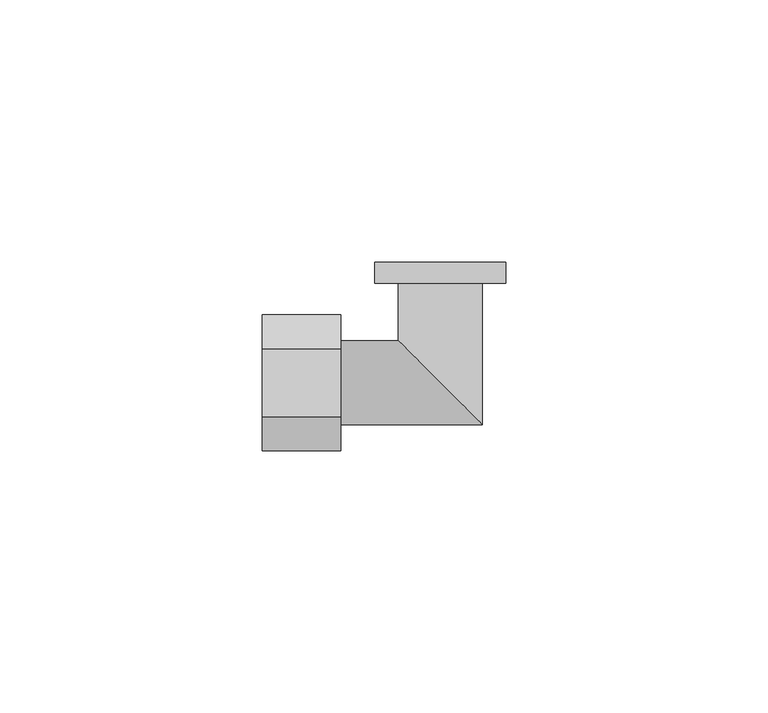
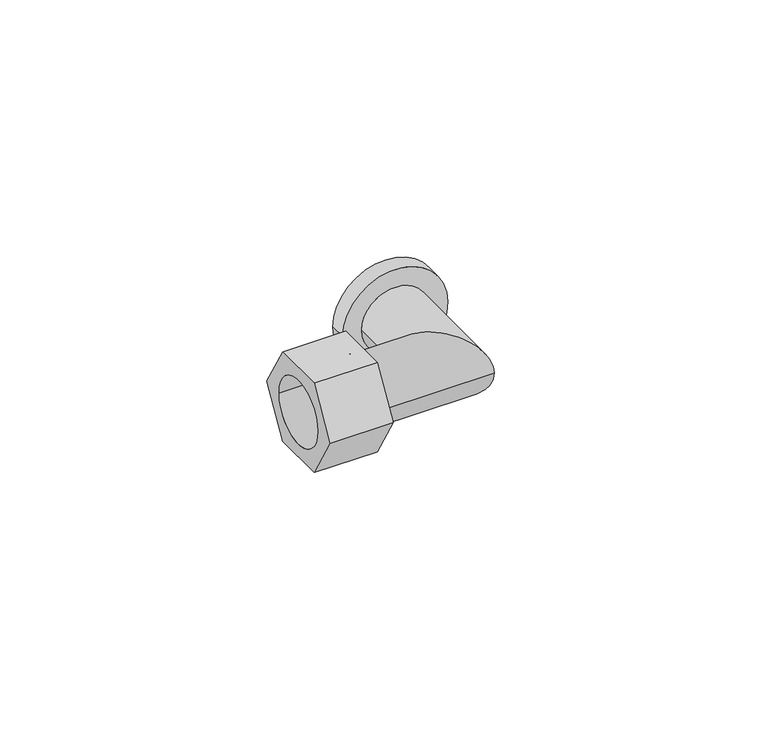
"""IFC4 building model written with IfcOpenShell, lengths in millimetres: pipe fitting geometry, БИР ПЕКС_КМП_Угольник_Резьба_Наружная : Угольник с наружной резьбой_КМП."""

from ifc_helpers import new_model, si_unit, point, frame, origin, origin_2d, place, context, project, spatial, polyline, circle_curve, ellipse_curve, trimmed, segment, composite_curve, outline, extrude, source, transform, mapped, element, save
from ifc_brep_helpers import plane_surface, cylinder_surface, revolved_surface, advanced_brep


def pipe_fitting_8643bd3e(model_context):
    return source(origin(), model_context, "Body", "SolidModel", [
        extrude(outline(polyline([(-6.5, -11.2583302), (-13.0, 0.0), (-6.5, 11.2583302), (6.5, 11.2583302), (13.0, 0.0), (6.5, -11.2583302), (-6.5, -11.2583302)]), holes=[composite_curve([segment(trimmed(circle_curve(origin_2d(), 8.0), [point((-8.0, 0.0))], [point((8.0, 0.0))], True, "CARTESIAN"), True, "CONTINUOUS"), segment(trimmed(circle_curve(origin_2d(), 8.0), [point((8.0, 0.0))], [point((-8.0, 0.0))], True, "CARTESIAN"), True, "CONTINUOUS")], self_intersect=False)]), frame((-34.0, 0.0, 0.0), z_axis=(1.0, 0.0, 0.0), x_axis=(0.0, 1.0, 0.0)), (0.0, 0.0, 1.0), 15.0),
        advanced_brep(
        [(-19.0, -8.0, 0.0), (-19.0, 8.0, 0.0), (-19.0, -7.5, 0.0), (-19.0, 7.5, 0.0), (8.0, -8.0, 0.0), (-8.0, 8.0, 0.0), (-12.5, 23.0, 0.0), (12.5, 23.0, 0.0), (7.5, 23.0, 0.0), (-7.5, 23.0, 0.0), (8.0, 19.0, 0.0), (-8.0, 19.0, 0.0), (-12.5, 19.0, 0.0), (12.5, 19.0, 0.0), (7.5, -7.5, 0.0), (-7.5, 7.5, 0.0), (-7.5, 19.0, 0.0), (7.5, 19.0, 0.0)],
        [
            (0, 1, circle_curve(frame((-19.0, 0.0, 0.0), z_axis=(-1.0, 0.0, 0.0), x_axis=(0.0, 1.0, 0.0)), 8.0)),
            (1, 0, circle_curve(frame((-19.0, 0.0, 0.0), z_axis=(-1.0, 0.0, 0.0), x_axis=(0.0, 1.0, 0.0)), 8.0)),
            (2, 3, circle_curve(frame((-19.0, 0.0, 0.0), z_axis=(1.0, 0.0, 0.0), x_axis=(0.0, 1.0, 0.0)), 7.5)),
            (3, 2, circle_curve(frame((-19.0, 0.0, 0.0), z_axis=(1.0, 0.0, 0.0), x_axis=(0.0, 1.0, 0.0)), 7.5)),
            (0, 4),
            (4, 5, ellipse_curve(frame((0.0, 0.0, 0.0), z_axis=(-0.7071067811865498, -0.7071067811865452, 0.0), x_axis=(-0.7071067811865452, 0.7071067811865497, 0.0)), 11.3137085, 8.0)),
            (5, 1),
            (5, 4, ellipse_curve(frame((0.0, 0.0, 0.0), z_axis=(-0.7071067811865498, -0.7071067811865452, 0.0), x_axis=(-0.7071067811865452, 0.7071067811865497, 0.0)), 11.3137085, 8.0)),
            (6, 7, circle_curve(frame((0.0, 23.0, 0.0), z_axis=(0.0, 1.0, 0.0), x_axis=(1.0, 0.0, 0.0)), 12.5)),
            (7, 6, circle_curve(frame((0.0, 23.0, 0.0), z_axis=(0.0, 1.0, 0.0), x_axis=(1.0, 0.0, 0.0)), 12.5)),
            (8, 9, circle_curve(frame((0.0, 23.0, 0.0), z_axis=(0.0, -1.0, 0.0), x_axis=(-1.0, 0.0, 0.0)), 7.5)),
            (9, 8, circle_curve(frame((0.0, 23.0, 0.0), z_axis=(0.0, -1.0, 0.0), x_axis=(-1.0, 0.0, 0.0)), 7.5)),
            (4, 10),
            (10, 11, circle_curve(frame((0.0, 19.0, 0.0), z_axis=(0.0, -1.0, 0.0), x_axis=(-1.0, 0.0, 0.0)), 8.0)),
            (11, 5),
            (11, 10, circle_curve(frame((0.0, 19.0, 0.0), z_axis=(0.0, -1.0, 0.0), x_axis=(-1.0, 0.0, 0.0)), 8.0)),
            (12, 13, circle_curve(frame((0.0, 19.0, 0.0), z_axis=(0.0, -1.0, 0.0), x_axis=(1.0, 0.0, 0.0)), 12.5)),
            (13, 12, circle_curve(frame((0.0, 19.0, 0.0), z_axis=(0.0, -1.0, 0.0), x_axis=(1.0, 0.0, 0.0)), 12.5)),
            (12, 6),
            (7, 13),
            (2, 14),
            (14, 15, ellipse_curve(frame((0.0, 0.0, 0.0), z_axis=(0.7071067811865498, 0.7071067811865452, 0.0), x_axis=(0.7071067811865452, -0.7071067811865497, 0.0)), 10.6066017, 7.5)),
            (15, 3),
            (15, 14, ellipse_curve(frame((0.0, 0.0, 0.0), z_axis=(0.7071067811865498, 0.7071067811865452, 0.0), x_axis=(0.7071067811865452, -0.7071067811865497, 0.0)), 10.6066017, 7.5)),
            (9, 16),
            (16, 15),
            (14, 17),
            (17, 8),
        ],
        [
            plane_surface(frame((-19.0, 0.0, 0.0), z_axis=(-1.0, 0.0, 0.0), x_axis=(0.0, 0.0, 1.0))),
            cylinder_surface(frame((-19.0, 0.0, 0.0), z_axis=(-1.0, 0.0, 0.0), x_axis=(0.0, 1.0, 0.0)), 8.0),
            plane_surface(frame((0.0, 23.0, 0.0), z_axis=(0.0, 1.0, 0.0), x_axis=(0.0, 0.0, 1.0))),
            cylinder_surface(frame((0.0, 0.0, 0.0), z_axis=(0.0, -1.0, 0.0), x_axis=(-1.0, 0.0, 0.0)), 8.0),
            plane_surface(frame((12.5, 19.0, 0.0), z_axis=(0.0, -1.0, 0.0), x_axis=(0.0, 0.0, 1.0))),
            cylinder_surface(frame((0.0, 23.0, 0.0), z_axis=(0.0, -1.0, 0.0), x_axis=(1.0, 0.0, 0.0)), 12.5),
            revolved_surface(polyline([(7.5, 7.5, 0.0), (-19.0, 7.5, 0.0)]), (-19.0, 0.0, 0.0), (1.0, 0.0, 0.0)),
            revolved_surface(polyline([(-7.5, 23.0, 0.0), (-7.5, -7.5, 0.0)]), (0.0, 0.0, 0.0), (0.0, 1.0, 0.0)),
        ],
        [
            (0, [[1, 2], [3, 4]]),
            (1, [[-1, 5, 6, 7]]),
            (1, [[-2, -7, 8, -5]]),
            (2, [[9, 10], [11, 12]]),
            (3, [[-6, 13, 14, 15]]),
            (3, [[-8, -15, 16, -13]]),
            (4, [[17, 18], [-14, -16]]),
            (5, [[-17, 19, -10, 20]]),
            (5, [[-18, -20, -9, -19]]),
            (6, [[-3, 21, 22, 23]]),
            (6, [[-4, -23, 24, -21]]),
            (7, [[-12, 25, 26, -22, 27, 28]]),
            (7, [[-11, -28, -27, -24, -26, -25]]),
        ],
    ),
    ])


if __name__ == "__main__":
    model = new_model("IFC4")
    model_context = context("Model", 3, world=origin())
    ifc_project = project(units=[si_unit("LENGTHUNIT", "METRE", prefix="MILLI")], contexts=[model_context])
    site = spatial("IfcSite", under=ifc_project)
    building = spatial("IfcBuilding", under=site)
    placement = place(None, origin())
    pipe_fitting_shape = pipe_fitting_8643bd3e(model_context)
    element("IfcPipeFitting", 1, ObjectType="БИР ПЕКС_КМП_Угольник_Резьба_Наружная : Угольник с наружной резьбой_КМП", at=placement, inside=building, context=model_context, shape_type="MappedRepresentation", body=[
        mapped(pipe_fitting_shape, transform((0.0, 0.0, 0.0), x_axis=(1.0, 0.0, 0.0), y_axis=(0.0, 1.0, 0.0), z_axis=(0.0, 0.0, 1.0))),
    ])
    save(model, "model.ifc")
